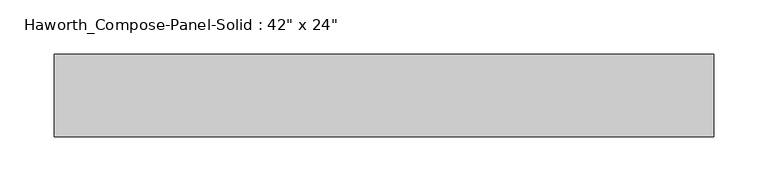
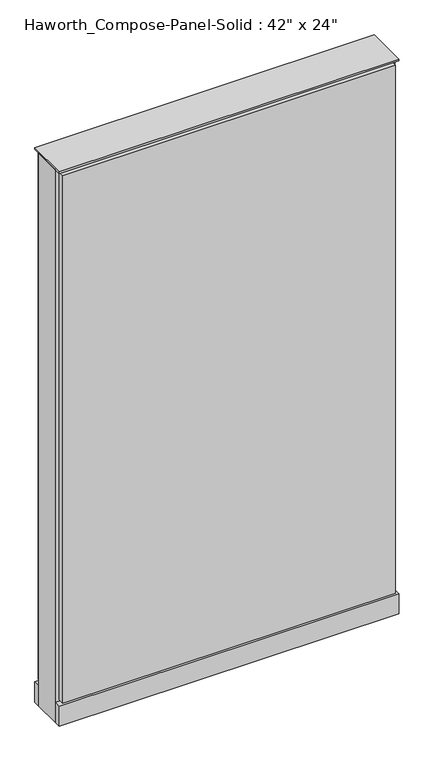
"""IFC4 building model written with IfcOpenShell, lengths in millimetres: furniture geometry."""

import ifcopenshell
import ifcopenshell.guid

model = None  # the IFC model being written
_history = None  # IfcOwnerHistory: only IFC2X3 demands one
_inside = {}  # id of a spatial element -> (the spatial element, [elements in it])
_under = {}  # id of a project, library or spatial element -> (it, [spatial elements below it])
_declared = {}  # id of a project -> (the project, [libraries it declares])
_typed = {}  # id of a type object -> (the type object, [elements of that type])
_made_of = {}  # id of a material, layer set ... -> (it, [elements and type objects made of it])


def new_model(schema):
    """Start an empty IFC model of exactly this schema.

    Asked for "IFC4X3", IfcOpenShell would pick the latest addendum, in which some entities
    have other attributes; the version numbers below select the first issue.
    IFC2X3 requires an IfcOwnerHistory on every rooted entity: one is made here for all.
    """
    global model, _history
    if schema == "IFC4X3":
        model = ifcopenshell.file(schema_version=(4, 3, 0, 0))
    else:
        model = ifcopenshell.file(schema=schema)
    _inside.clear()
    _under.clear()
    _declared.clear()
    _typed.clear()
    _made_of.clear()
    _history = None
    if model.schema == "IFC2X3":
        org = make("IfcOrganization", Name="unknown")
        user = make(
            "IfcPersonAndOrganization",
            ThePerson=make("IfcPerson", FamilyName="unknown"),
            TheOrganization=org,
        )
        app = make(
            "IfcApplication",
            ApplicationDeveloper=org,
            Version="unknown",
            ApplicationFullName="unknown",
            ApplicationIdentifier="unknown",
        )
        _history = make(
            "IfcOwnerHistory",
            OwningUser=user,
            OwningApplication=app,
            ChangeAction="ADDED",
            CreationDate=0,
        )
    return model


def make(cls, **values):
    """One entity of the class cls with the attributes given. An attribute that is None is left unset."""
    return model.create_entity(
        cls, **{name: value for name, value in values.items() if value is not None}
    )


def rooted(cls, **values):
    """An entity with a GlobalId (a new one), such as an element, a storey or a relation."""
    return make(cls, GlobalId=ifcopenshell.guid.new(), OwnerHistory=_history, **values)


def si_unit(unit_type, name, prefix=None):
    """IfcSIUnit, for example si_unit("LENGTHUNIT", "METRE", prefix="MILLI")."""
    return make("IfcSIUnit", UnitType=unit_type, Prefix=prefix, Name=name)


def assignment(units):
    """IfcUnitAssignment: the units of a project."""
    return None if units is None else make("IfcUnitAssignment", Units=units)


def point(xyz):
    """IfcCartesianPoint."""
    return None if xyz is None else make("IfcCartesianPoint", Coordinates=xyz)


def direction(xyz):
    """IfcDirection."""
    return None if xyz is None else make("IfcDirection", DirectionRatios=xyz)


def frame(location, z_axis=None, x_axis=None):
    """IfcAxis2Placement3D, a coordinate frame: its origin and axes. An axis left out is left unset."""
    return make(
        "IfcAxis2Placement3D",
        Location=point(location),
        Axis=direction(z_axis),
        RefDirection=direction(x_axis),
    )


def frame_2d(location, x_axis=None):
    """IfcAxis2Placement2D, a coordinate frame in the plane: its origin and x axis."""
    return make(
        "IfcAxis2Placement2D", Location=point(location), RefDirection=direction(x_axis)
    )


def origin():
    """The frame at (0, 0, 0) with its axes left unset."""
    return frame((0.0, 0.0, 0.0))


def origin_with_axes():
    """The frame at (0, 0, 0) with the z axis (0, 0, 1) and the x axis (1, 0, 0) written out."""
    return frame((0.0, 0.0, 0.0), z_axis=(0.0, 0.0, 1.0), x_axis=(1.0, 0.0, 0.0))


def place(relative_to, where):
    """IfcLocalPlacement: puts the frame where relative to a parent placement (None: the world)."""
    return make(
        "IfcLocalPlacement", PlacementRelTo=relative_to, RelativePlacement=where
    )


def context(
    kind, dimensions, precision=None, world=None, true_north=None, identifier=None
):
    """IfcGeometricRepresentationContext, for example the 3D "Model" context."""
    return make(
        "IfcGeometricRepresentationContext",
        ContextIdentifier=identifier,
        ContextType=kind,
        CoordinateSpaceDimension=dimensions,
        Precision=precision,
        WorldCoordinateSystem=world,
        TrueNorth=true_north,
    )


def project(units=None, contexts=None):
    """IfcProject with its units and contexts."""
    return rooted(
        "IfcProject",
        Name="project",
        RepresentationContexts=contexts,
        UnitsInContext=assignment(units),
    )


def spatial(cls, under=None, at=None, **own):
    """A site, building, storey or space (cls), placed at a placement, below another one or the project."""
    s = rooted(cls, ObjectPlacement=at, **own)
    if under is not None:
        _under.setdefault(under.id(), (under, []))[1].append(s)
    return s


def polyline(points):
    """IfcPolyline through the points."""
    return make("IfcPolyline", Points=[point(p) for p in points])


def circle_curve(where, radius):
    """IfcCircle in the frame where."""
    return make("IfcCircle", Position=where, Radius=radius)


def trimmed(basis, trim1, trim2, sense, master):
    """IfcTrimmedCurve: the piece of a basis curve between two trims."""
    return make(
        "IfcTrimmedCurve",
        BasisCurve=basis,
        Trim1=trim1,
        Trim2=trim2,
        SenseAgreement=sense,
        MasterRepresentation=master,
    )


def segment(curve, same_sense, transition):
    """IfcCompositeCurveSegment."""
    return make(
        "IfcCompositeCurveSegment",
        Transition=transition,
        SameSense=same_sense,
        ParentCurve=curve,
    )


def composite_curve(segments, self_intersect=None):
    """IfcCompositeCurve: segments joined end to end."""
    return make("IfcCompositeCurve", Segments=segments, SelfIntersect=self_intersect)


def outline(outer, holes=None, kind="AREA"):
    """IfcArbitraryClosedProfileDef: a profile drawn as a closed curve; with holes, ...WithVoids."""
    if holes is None:
        return make("IfcArbitraryClosedProfileDef", ProfileType=kind, OuterCurve=outer)
    return make(
        "IfcArbitraryProfileDefWithVoids",
        ProfileType=kind,
        OuterCurve=outer,
        InnerCurves=holes,
    )


def extrude(swept, where, along, depth):
    """IfcExtrudedAreaSolid: the profile swept, set in the frame where, extruded along a direction by depth."""
    return make(
        "IfcExtrudedAreaSolid",
        SweptArea=swept,
        Position=where,
        ExtrudedDirection=direction(along),
        Depth=depth,
    )


def shape(context_of_items, identifier, shape_type, items):
    """IfcShapeRepresentation: the items that make up one representation, for example the "Body"."""
    return make(
        "IfcShapeRepresentation",
        ContextOfItems=context_of_items,
        RepresentationIdentifier=identifier,
        RepresentationType=shape_type,
        Items=items,
    )


def source(mapping_origin, context_of_items, identifier, shape_type, items):
    """IfcRepresentationMap: a shape defined once, which mapped items show again and again."""
    return make(
        "IfcRepresentationMap",
        MappingOrigin=mapping_origin,
        MappedRepresentation=shape(context_of_items, identifier, shape_type, items),
    )


def transform(
    local_origin,
    x_axis=None,
    y_axis=None,
    z_axis=None,
    scale=None,
    scale2=None,
    scale3=None,
    uniform=True,
):
    """IfcCartesianTransformationOperator3D, or its non-uniform kind. x_axis, y_axis, z_axis: its Axis1, 2, 3."""
    if uniform:
        return make(
            "IfcCartesianTransformationOperator3D",
            Axis1=direction(x_axis),
            Axis2=direction(y_axis),
            LocalOrigin=point(local_origin),
            Scale=scale,
            Axis3=direction(z_axis),
        )
    return make(
        "IfcCartesianTransformationOperator3DnonUniform",
        Axis1=direction(x_axis),
        Axis2=direction(y_axis),
        LocalOrigin=point(local_origin),
        Scale=scale,
        Axis3=direction(z_axis),
        Scale2=scale2,
        Scale3=scale3,
    )


def mapped(mapping_source, mapping_target):
    """IfcMappedItem: shows the shape of a source again, moved by a transform."""
    return make(
        "IfcMappedItem", MappingSource=mapping_source, MappingTarget=mapping_target
    )


def made_of(thing, what):
    """Note that an element or type object is made of a material, layer set ...; save() writes the relation."""
    if what is not None:
        _made_of.setdefault(what.id(), (what, []))[1].append(thing)
    return thing


def element(
    cls,
    number,
    at=None,
    inside=None,
    cuts=None,
    type_object=None,
    material=None,
    context=None,
    identifier="Body",
    shape_type=None,
    held_by="IfcProductDefinitionShape",
    body=None,
    shapes=None,
    **own,
):
    """One element of the class cls, such as IfcWall. Its Tag is "e" and its number.

    at: its placement. inside: the storey or other place that contains it. cuts: it is an
    opening in that element (IfcRelVoidsElement). A single representation is given by context,
    identifier, shape_type and body (its items); several are given by shapes. held_by: the class
    of the entity that holds the representations. save() writes the other relations.
    """
    e = rooted(cls, Tag="e%d" % number, ObjectPlacement=at, **own)
    if body is not None:
        shapes = [shape(context, identifier, shape_type, body)]
    if shapes is not None:
        e.Representation = make(held_by, Representations=shapes)
    if inside is not None:
        _inside.setdefault(inside.id(), (inside, []))[1].append(e)
    if cuts is not None:
        rooted(
            "IfcRelVoidsElement", RelatingBuildingElement=cuts, RelatedOpeningElement=e
        )
    if type_object is not None:
        _typed.setdefault(type_object.id(), (type_object, []))[1].append(e)
    return made_of(e, material)


def aggregate(whole, parts):
    """IfcRelAggregates: a whole, such as a stair, and the parts it consists of."""
    return rooted("IfcRelAggregates", RelatingObject=whole, RelatedObjects=parts)


def save(model, path):
    """Write the relations noted so far, then the file.

    IfcRelAggregates (storeys below a building ...), IfcRelContainedInSpatialStructure (elements
    in a storey), IfcRelDefinesByType, IfcRelAssociatesMaterial and IfcRelDeclares: one each for
    every whole, place, type object, material and project.
    """
    for whole, parts in _under.values():
        aggregate(whole, parts)
    for where, things in _inside.values():
        rooted(
            "IfcRelContainedInSpatialStructure",
            RelatedElements=things,
            RelatingStructure=where,
        )
    for kind, things in _typed.values():
        rooted("IfcRelDefinesByType", RelatedObjects=things, RelatingType=kind)
    for what, things in _made_of.values():
        rooted("IfcRelAssociatesMaterial", RelatedObjects=things, RelatingMaterial=what)
    for by, libraries in _declared.values():
        rooted("IfcRelDeclares", RelatingContext=by, RelatedDefinitions=libraries)
    model.write(path)


def furniture_50596205(model_context):
    return source(origin(), model_context, "Body", "SweptSolid", [
        extrude(outline(composite_curve([segment(trimmed(circle_curve(frame_2d((-226.1597098, 0.0)), 12.7), [point((-238.8597098, 0.0))], [point((-213.4597098, 0.0))], False, "CARTESIAN"), True, "CONTINUOUS"), segment(trimmed(circle_curve(frame_2d((-226.1597098, 0.0)), 12.7), [point((-213.4597098, 0.0))], [point((-238.8597098, 0.0))], False, "CARTESIAN"), True, "CONTINUOUS")], self_intersect=False)), origin_with_axes(), (0.0, 0.0, 1.0), 12.7),
        extrude(outline(composite_curve([segment(trimmed(circle_curve(frame_2d((231.0402902, 0.0)), 12.7), [point((218.3402902, 0.0))], [point((243.7402902, 0.0))], False, "CARTESIAN"), True, "CONTINUOUS"), segment(trimmed(circle_curve(frame_2d((231.0402902, 0.0)), 12.7), [point((243.7402902, 0.0))], [point((218.3402902, 0.0))], False, "CARTESIAN"), True, "CONTINUOUS")], self_intersect=False)), origin_with_axes(), (0.0, 0.0, 1.0), 12.7),
        extrude(outline(polyline([(300.8902902, 38.1), (300.8902902, 25.4), (-296.0097098, 25.4), (-296.0097098, 38.1), (300.8902902, 38.1)])), frame((0.0, 0.0, 53.975), z_axis=(0.0, 0.0, 1.0), x_axis=(1.0, 0.0, 0.0)), (0.0, 0.0, 1.0), 1000.125),
        extrude(outline(polyline([(300.8902902, -38.1), (-296.0097098, -38.1), (-296.0097098, -25.4), (300.8902902, -25.4), (300.8902902, -38.1)])), frame((0.0, 0.0, 53.975), z_axis=(0.0, 0.0, 1.0), x_axis=(1.0, 0.0, 0.0)), (0.0, 0.0, 1.0), 1000.125),
        extrude(outline(polyline([(307.2402902, 25.4), (307.2402902, -25.4), (-302.3597098, -25.4), (-302.3597098, 25.4), (307.2402902, 25.4)])), frame((0.0, 0.0, 12.7), z_axis=(0.0, 0.0, 1.0), x_axis=(1.0, 0.0, 0.0)), (0.0, 0.0, 1.0), 1047.75),
        extrude(outline(polyline([(-302.3597098, -38.1), (-302.3597098, 38.1), (307.2402902, 38.1), (307.2402902, -38.1), (-302.3597098, -38.1)])), frame((0.0, 0.0, 12.7), z_axis=(0.0, 0.0, 1.0), x_axis=(1.0, 0.0, 0.0)), (0.0, 0.0, 1.0), 38.1),
        extrude(outline(polyline([(-302.3597098, -38.1), (-302.3597098, 38.1), (307.2402902, 38.1), (307.2402902, -38.1), (-302.3597098, -38.1)])), frame((0.0, 0.0, 1060.45), z_axis=(0.0, 0.0, 1.0), x_axis=(1.0, 0.0, 0.0)), (0.0, 0.0, 1.0), 3.175),
    ])


if __name__ == "__main__":
    model = new_model("IFC4")
    model_context = context("Model", 3, world=origin())
    ifc_project = project(units=[si_unit("LENGTHUNIT", "METRE", prefix="MILLI")], contexts=[model_context])
    site = spatial("IfcSite", under=ifc_project)
    building = spatial("IfcBuilding", under=site)
    placement = place(None, origin())
    furniture_shape = furniture_50596205(model_context)
    element("IfcFurniture", 1, ObjectType="Haworth_Compose-Panel-Solid : 42\" x 24\"", at=placement, inside=building, context=model_context, shape_type="MappedRepresentation", body=[
        mapped(furniture_shape, transform((0.0, 0.0, 0.0), x_axis=(1.0, 0.0, 0.0), y_axis=(0.0, 1.0, 0.0), z_axis=(0.0, 0.0, 1.0))),
    ])
    save(model, "model.ifc")
